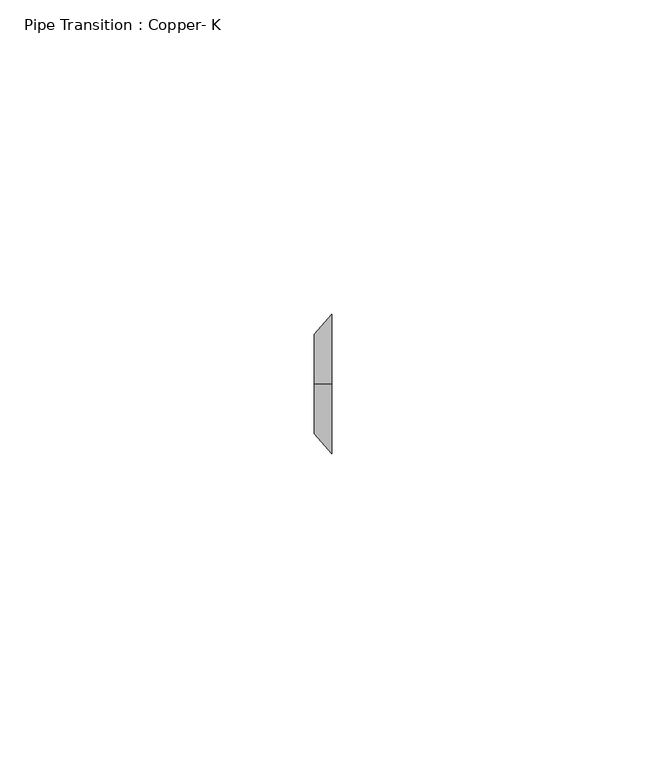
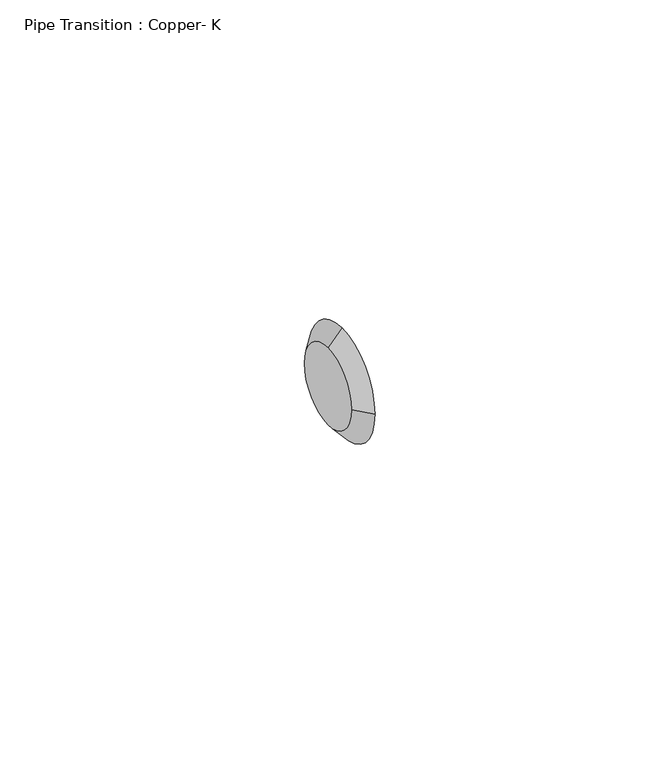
"""IFC4 building model written with IfcOpenShell, lengths in millimetres: pipe fitting geometry, Pipe Transition : Copper- K."""

from ifc_helpers import new_model, si_unit, frame, origin, place, context, project, spatial, polyline, circle_curve, source, transform, mapped, element, save
from ifc_brep_helpers import plane_surface, revolved_surface, advanced_brep


def pipe_transition_copper_k_5eccf8ab(model_context):
    return source(origin(), model_context, "Body", "AdvancedBrep", [
        advanced_brep(
        [(2.778125, 0.0, 11.1125), (2.778125, -11.1125, 0.0), (2.778125, 0.0, -11.1125), (2.778125, 11.1125, 0.0), (0.0, 0.0, 7.9375), (0.0, 7.9375, 0.0), (0.0, 0.0, -7.9375), (0.0, -7.9375, 0.0)],
        [
            (0, 1, circle_curve(frame((2.778125, 0.0, 0.0), z_axis=(1.0, 0.0, 0.0), x_axis=(0.0, -1.0, 0.0)), 11.1125)),
            (1, 2, circle_curve(frame((2.778125, 0.0, 0.0), z_axis=(1.0, 0.0, 0.0), x_axis=(0.0, 0.0, -1.0)), 11.1125)),
            (2, 3, circle_curve(frame((2.778125, 0.0, 0.0), z_axis=(1.0, 0.0, 0.0), x_axis=(0.0, 1.0, 0.0)), 11.1125)),
            (3, 0, circle_curve(frame((2.778125, 0.0, 0.0), z_axis=(1.0, 0.0, 0.0), x_axis=(0.0, 0.0, 1.0)), 11.1125)),
            (4, 5, circle_curve(frame((0.0, 0.0, 0.0), z_axis=(-1.0, 0.0, 0.0), x_axis=(0.0, 0.0, 1.0)), 7.9375)),
            (5, 6, circle_curve(frame((0.0, 0.0, 0.0), z_axis=(-1.0, 0.0, 0.0), x_axis=(0.0, 1.0, 0.0)), 7.9375)),
            (6, 7, circle_curve(frame((0.0, 0.0, 0.0), z_axis=(-1.0, 0.0, 0.0), x_axis=(0.0, 0.0, -1.0)), 7.9375)),
            (7, 4, circle_curve(frame((0.0, 0.0, 0.0), z_axis=(-1.0, 0.0, 0.0), x_axis=(0.0, -1.0, 0.0)), 7.9375)),
            (4, 0),
            (3, 5),
            (2, 6),
            (1, 7),
        ],
        [
            plane_surface(frame((2.778125, 0.0, 0.0), z_axis=(1.0, 0.0, 0.0), x_axis=(0.0, 1.0, 0.0))),
            plane_surface(frame((0.0, 0.0, 0.0), z_axis=(-1.0, 0.0, 0.0), x_axis=(0.0, 1.0, 0.0))),
            revolved_surface(polyline([(0.0, 0.0, 7.937500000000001), (2.7781249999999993, 0.0, 11.1125)]), (-6.9453125, 0.0, 0.0), (1.0, 0.0, 0.0)),
            revolved_surface(polyline([(0.0, 7.937500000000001, 0.0), (2.7781249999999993, 11.1125, 0.0)]), (-6.9453125, 0.0, 0.0), (1.0, 0.0, 0.0)),
            revolved_surface(polyline([(0.0, 0.0, -7.937500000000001), (2.7781249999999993, 0.0, -11.1125)]), (-6.9453125, 0.0, 0.0), (1.0, 0.0, 0.0)),
            revolved_surface(polyline([(0.0, -7.937500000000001, 0.0), (2.7781249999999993, -11.1125, 0.0)]), (-6.9453125, 0.0, 0.0), (1.0, 0.0, 0.0)),
        ],
        [
            (0, [[1, 2, 3, 4]]),
            (1, [[5, 6, 7, 8]]),
            (2, [[9, -4, 10, -5]]),
            (3, [[-10, -3, 11, -6]]),
            (4, [[-11, -2, 12, -7]]),
            (5, [[-12, -1, -9, -8]]),
        ],
    ),
        advanced_brep(
        [(2.778125, 0.0, 11.1125), (2.778125, -11.1125, 0.0), (2.778125, 0.0, -11.1125), (2.778125, 11.1125, 0.0), (0.0, 0.0, 7.9375), (0.0, 7.9375, 0.0), (0.0, 0.0, -7.9375), (0.0, -7.9375, 0.0)],
        [
            (0, 1, circle_curve(frame((2.778125, 0.0, 0.0), z_axis=(1.0, 0.0, 0.0), x_axis=(0.0, -1.0, 0.0)), 11.1125)),
            (1, 2, circle_curve(frame((2.778125, 0.0, 0.0), z_axis=(1.0, 0.0, -4.6852845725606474e-12), x_axis=(-4.685327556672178e-12, 0.0, -1.0)), 11.1125)),
            (2, 3, circle_curve(frame((2.778125, 0.0, 0.0), z_axis=(1.0, 0.0, -2.8817156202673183e-12), x_axis=(0.0, 1.0, 0.0)), 11.1125)),
            (3, 0, circle_curve(frame((2.778125, 0.0, 0.0), z_axis=(1.0, 0.0, -3.0035229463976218e-12), x_axis=(3.0035664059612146e-12, 0.0, 1.0)), 11.1125)),
            (4, 5, circle_curve(frame((0.0, 0.0, 0.0), z_axis=(-1.0, 0.0, 3.0035229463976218e-12), x_axis=(3.0035664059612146e-12, 0.0, 1.0)), 7.9375)),
            (5, 6, circle_curve(frame((0.0, 0.0, 0.0), z_axis=(-1.0, 0.0, 2.8817156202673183e-12), x_axis=(0.0, 1.0, 0.0)), 7.9375)),
            (6, 7, circle_curve(frame((0.0, 0.0, 0.0), z_axis=(-1.0, 0.0, 4.6852845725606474e-12), x_axis=(-4.685327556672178e-12, 0.0, -1.0)), 7.9375)),
            (7, 4, circle_curve(frame((0.0, 0.0, 0.0), z_axis=(-1.0, 0.0, 0.0), x_axis=(0.0, -1.0, 0.0)), 7.9375)),
            (4, 0),
            (3, 5),
            (2, 6),
            (1, 7),
        ],
        [
            plane_surface(frame((2.778125, 0.0, 0.0), z_axis=(1.0, 0.0, 0.0), x_axis=(0.0, 1.0, 0.0))),
            plane_surface(frame((0.0, 0.0, 0.0), z_axis=(-1.0, 0.0, 0.0), x_axis=(0.0, 1.0, 0.0))),
            revolved_surface(polyline([(0.0, 0.0, 7.937500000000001), (2.7781250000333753, 0.0, 11.112500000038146)]), (-6.9453125, 0.0, 0.0), (1.0, 0.0, -3.0035229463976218e-12)),
            revolved_surface(polyline([(0.0, 7.937500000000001, 0.0), (2.7781250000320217, 11.112500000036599, 0.0)]), (-6.9453125, 0.0, 0.0), (1.0, 0.0, -2.8817156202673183e-12)),
            revolved_surface(polyline([(-3.7189806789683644e-11, 0.0, -7.937499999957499), (2.7781249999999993, 0.0, -11.1125)]), (-6.9453125, 0.0, 0.0), (1.0, 0.0, -4.6852845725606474e-12)),
            revolved_surface(polyline([(0.0, -7.937500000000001, 0.0), (2.7781249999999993, -11.1125, 0.0)]), (-6.9453125, 0.0, 0.0), (1.0, 0.0, 0.0)),
        ],
        [
            (0, [[1, 2, 3, 4]]),
            (1, [[5, 6, 7, 8]]),
            (2, [[9, -4, 10, -5]]),
            (3, [[-10, -3, 11, -6]]),
            (4, [[-11, -2, 12, -7]]),
            (5, [[-12, -1, -9, -8]]),
        ],
    ),
    ])


if __name__ == "__main__":
    model = new_model("IFC4")
    model_context = context("Model", 3, world=origin())
    ifc_project = project(units=[si_unit("LENGTHUNIT", "METRE", prefix="MILLI")], contexts=[model_context])
    site = spatial("IfcSite", under=ifc_project)
    building = spatial("IfcBuilding", under=site)
    placement = place(None, origin())
    pipe_transition_copper_k_shape = pipe_transition_copper_k_5eccf8ab(model_context)
    element("IfcPipeFitting", 1, ObjectType="Pipe Transition : Copper- K", at=placement, inside=building, context=model_context, shape_type="MappedRepresentation", body=[
        mapped(pipe_transition_copper_k_shape, transform((0.0, 0.0, 0.0), x_axis=(1.0, 0.0, 0.0), y_axis=(0.0, 1.0, 0.0), z_axis=(0.0, 0.0, 1.0))),
    ])
    save(model, "model.ifc")
